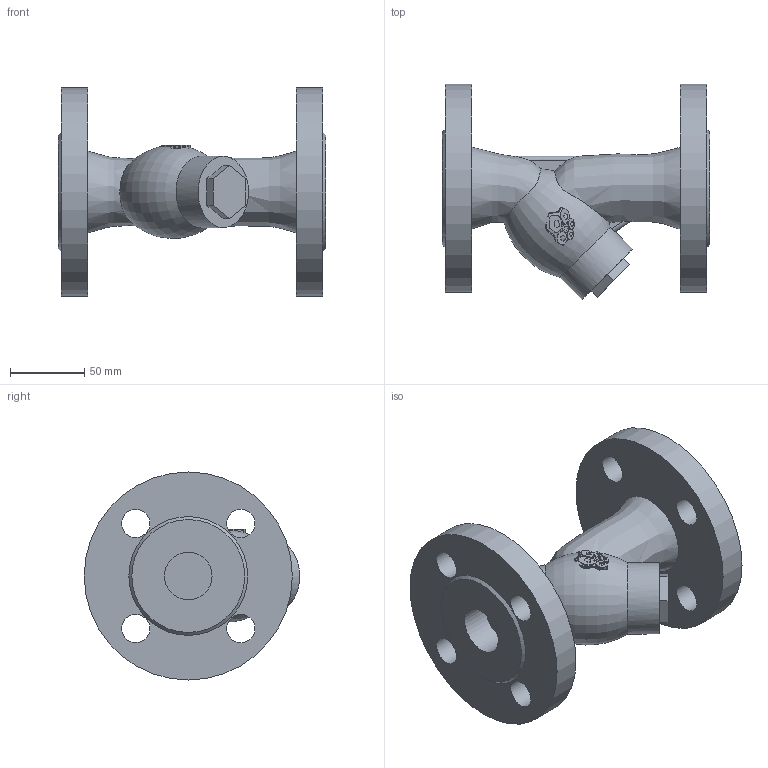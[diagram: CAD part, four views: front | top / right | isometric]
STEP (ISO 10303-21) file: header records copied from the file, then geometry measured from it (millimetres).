
FILE_DESCRIPTION(('STEP AP203'), '1');
FILE_NAME('3D_600_601-032-16_1_1', '', ('UNSPECIFIED'), ('UNSPECIFIED'), 'C3D Converter', 'C3D Toolkit', '');
FILE_SCHEMA(('CONFIG_CONTROL_DESIGN'));
Length unit declared in the file: millimetre
Bounding box: 180 x 145 x 140 mm (x, y, z)
Volume: 870655.9 mm3; surface area: 111904.6 mm2
Topology: 1 solids, 1 shells, 867 faces, 2545 edges, 1701 vertices
Faces by surface type: plane 841, cylinder 15, torus 7, bspline 2, cone 2
Full cylindrical faces by diameter (mm): 19 x8, 32 x2, 48 x1, 140 x2
Entity records: 44219 total; most frequent: CARTESIAN_POINT 15825, ORIENTED_EDGE 5056, DIRECTION 3470, EDGE_CURVE 2528, VERTEX_POINT 1701, LINE 1650, VECTOR 1650, EDGE_LOOP 921
